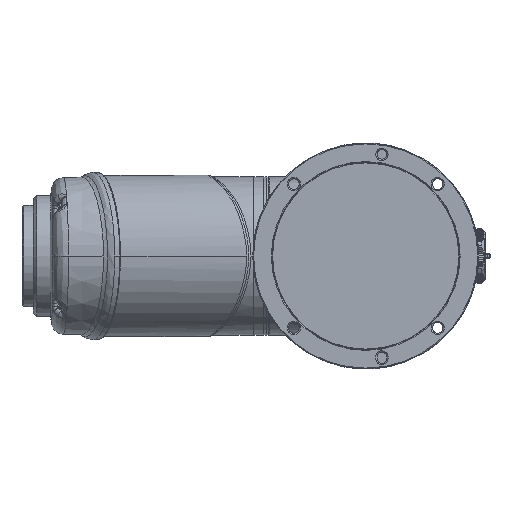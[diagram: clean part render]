
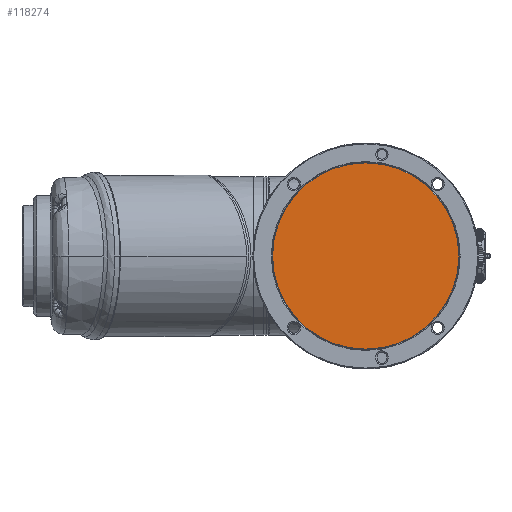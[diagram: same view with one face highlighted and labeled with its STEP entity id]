
A CAD part, front view. The second image highlights one B-rep face of the part: STEP entity #118274.
In plain terms, the highlighted planar face has unit normal (0, -1, 0) as drawn and (0, 0, 1) by its records, which use the part's own axes.
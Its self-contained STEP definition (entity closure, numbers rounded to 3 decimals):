
#1631 = EDGE_CURVE ( 'NONE', #122154, #131419, #84060, .T. ) ;
#5281 = ORIENTED_EDGE ( 'NONE', *, *, #142557, .T. ) ;
#24474 = CARTESIAN_POINT ( 'NONE',  ( 0., 0., -0.5 ) ) ;
#26171 = DIRECTION ( 'NONE',  ( 0., 0., 1. ) ) ;
#28469 = CARTESIAN_POINT ( 'NONE',  ( 0., 57.7, -0.5 ) ) ;
#34188 = CIRCLE ( 'NONE', #50730, 57.7 ) ;
#35686 = FACE_OUTER_BOUND ( 'NONE', #138466, .T. ) ;
#49488 = CARTESIAN_POINT ( 'NONE',  ( 0., 0., -0.5 ) ) ;
#50730 = AXIS2_PLACEMENT_3D ( 'NONE', #24474, #102869, #76248 ) ;
#58115 = DIRECTION ( 'NONE',  ( 0., 1., 0. ) ) ;
#73666 = CARTESIAN_POINT ( 'NONE',  ( 0., 0., -0.5 ) ) ;
#76248 = DIRECTION ( 'NONE',  ( 0., 1., 0. ) ) ;
#84060 = CIRCLE ( 'NONE', #158322, 57.7 ) ;
#97775 = DIRECTION ( 'NONE',  ( 0., 0., 1. ) ) ;
#102869 = DIRECTION ( 'NONE',  ( 0., 0., 1. ) ) ;
#104590 = DIRECTION ( 'NONE',  ( 1., 0., 0. ) ) ;
#118274 = ADVANCED_FACE ( 'NONE', ( #35686 ), #142568, .T. ) ;
#122154 = VERTEX_POINT ( 'NONE', #28469 ) ;
#122313 = ORIENTED_EDGE ( 'NONE', *, *, #1631, .T. ) ;
#131419 = VERTEX_POINT ( 'NONE', #165432 ) ;
#134191 = AXIS2_PLACEMENT_3D ( 'NONE', #49488, #26171, #104590 ) ;
#138466 = EDGE_LOOP ( 'NONE', ( #5281, #122313 ) ) ;
#142557 = EDGE_CURVE ( 'NONE', #131419, #122154, #34188, .T. ) ;
#142568 = PLANE ( 'NONE',  #134191 ) ;
#158322 = AXIS2_PLACEMENT_3D ( 'NONE', #73666, #97775, #58115 ) ;
#165432 = CARTESIAN_POINT ( 'NONE',  ( 0., -57.7, -0.5 ) ) ;
